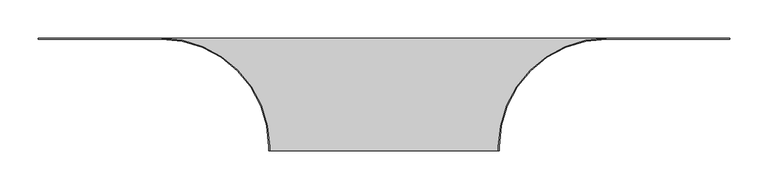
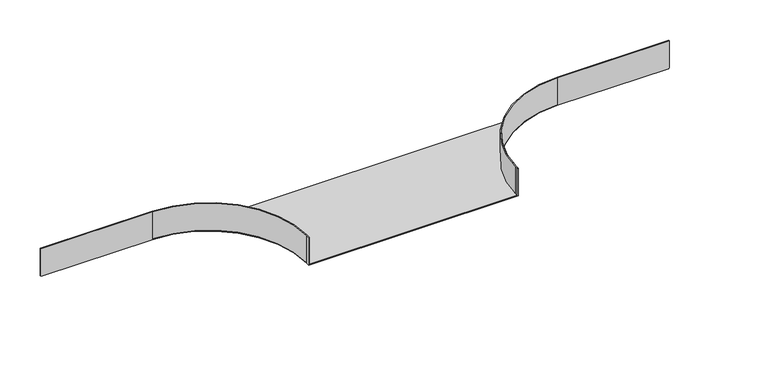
"""IFC4 building model written with IfcOpenShell, lengths in millimetres: cable carrier fitting geometry, BAKS_Horizontal addon tee : TKDJ_H42."""

import ifcopenshell
import ifcopenshell.guid

model = None  # the IFC model being written
_history = None  # IfcOwnerHistory: only IFC2X3 demands one
_inside = {}  # id of a spatial element -> (the spatial element, [elements in it])
_under = {}  # id of a project, library or spatial element -> (it, [spatial elements below it])
_declared = {}  # id of a project -> (the project, [libraries it declares])
_typed = {}  # id of a type object -> (the type object, [elements of that type])
_made_of = {}  # id of a material, layer set ... -> (it, [elements and type objects made of it])


def new_model(schema):
    """Start an empty IFC model of exactly this schema.

    Asked for "IFC4X3", IfcOpenShell would pick the latest addendum, in which some entities
    have other attributes; the version numbers below select the first issue.
    IFC2X3 requires an IfcOwnerHistory on every rooted entity: one is made here for all.
    """
    global model, _history
    if schema == "IFC4X3":
        model = ifcopenshell.file(schema_version=(4, 3, 0, 0))
    else:
        model = ifcopenshell.file(schema=schema)
    _inside.clear()
    _under.clear()
    _declared.clear()
    _typed.clear()
    _made_of.clear()
    _history = None
    if model.schema == "IFC2X3":
        org = make("IfcOrganization", Name="unknown")
        user = make(
            "IfcPersonAndOrganization",
            ThePerson=make("IfcPerson", FamilyName="unknown"),
            TheOrganization=org,
        )
        app = make(
            "IfcApplication",
            ApplicationDeveloper=org,
            Version="unknown",
            ApplicationFullName="unknown",
            ApplicationIdentifier="unknown",
        )
        _history = make(
            "IfcOwnerHistory",
            OwningUser=user,
            OwningApplication=app,
            ChangeAction="ADDED",
            CreationDate=0,
        )
    return model


def make(cls, **values):
    """One entity of the class cls with the attributes given. An attribute that is None is left unset."""
    return model.create_entity(
        cls, **{name: value for name, value in values.items() if value is not None}
    )


def rooted(cls, **values):
    """An entity with a GlobalId (a new one), such as an element, a storey or a relation."""
    return make(cls, GlobalId=ifcopenshell.guid.new(), OwnerHistory=_history, **values)


def si_unit(unit_type, name, prefix=None):
    """IfcSIUnit, for example si_unit("LENGTHUNIT", "METRE", prefix="MILLI")."""
    return make("IfcSIUnit", UnitType=unit_type, Prefix=prefix, Name=name)


def assignment(units):
    """IfcUnitAssignment: the units of a project."""
    return None if units is None else make("IfcUnitAssignment", Units=units)


def point(xyz):
    """IfcCartesianPoint."""
    return None if xyz is None else make("IfcCartesianPoint", Coordinates=xyz)


def direction(xyz):
    """IfcDirection."""
    return None if xyz is None else make("IfcDirection", DirectionRatios=xyz)


def frame(location, z_axis=None, x_axis=None):
    """IfcAxis2Placement3D, a coordinate frame: its origin and axes. An axis left out is left unset."""
    return make(
        "IfcAxis2Placement3D",
        Location=point(location),
        Axis=direction(z_axis),
        RefDirection=direction(x_axis),
    )


def origin():
    """The frame at (0, 0, 0) with its axes left unset."""
    return frame((0.0, 0.0, 0.0))


def place(relative_to, where):
    """IfcLocalPlacement: puts the frame where relative to a parent placement (None: the world)."""
    return make(
        "IfcLocalPlacement", PlacementRelTo=relative_to, RelativePlacement=where
    )


def context(
    kind, dimensions, precision=None, world=None, true_north=None, identifier=None
):
    """IfcGeometricRepresentationContext, for example the 3D "Model" context."""
    return make(
        "IfcGeometricRepresentationContext",
        ContextIdentifier=identifier,
        ContextType=kind,
        CoordinateSpaceDimension=dimensions,
        Precision=precision,
        WorldCoordinateSystem=world,
        TrueNorth=true_north,
    )


def project(units=None, contexts=None):
    """IfcProject with its units and contexts."""
    return rooted(
        "IfcProject",
        Name="project",
        RepresentationContexts=contexts,
        UnitsInContext=assignment(units),
    )


def spatial(cls, under=None, at=None, **own):
    """A site, building, storey or space (cls), placed at a placement, below another one or the project."""
    s = rooted(cls, ObjectPlacement=at, **own)
    if under is not None:
        _under.setdefault(under.id(), (under, []))[1].append(s)
    return s


def polyline(points):
    """IfcPolyline through the points."""
    return make("IfcPolyline", Points=[point(p) for p in points])


def circle_curve(where, radius):
    """IfcCircle in the frame where."""
    return make("IfcCircle", Position=where, Radius=radius)


def shape(context_of_items, identifier, shape_type, items):
    """IfcShapeRepresentation: the items that make up one representation, for example the "Body"."""
    return make(
        "IfcShapeRepresentation",
        ContextOfItems=context_of_items,
        RepresentationIdentifier=identifier,
        RepresentationType=shape_type,
        Items=items,
    )


def source(mapping_origin, context_of_items, identifier, shape_type, items):
    """IfcRepresentationMap: a shape defined once, which mapped items show again and again."""
    return make(
        "IfcRepresentationMap",
        MappingOrigin=mapping_origin,
        MappedRepresentation=shape(context_of_items, identifier, shape_type, items),
    )


def transform(
    local_origin,
    x_axis=None,
    y_axis=None,
    z_axis=None,
    scale=None,
    scale2=None,
    scale3=None,
    uniform=True,
):
    """IfcCartesianTransformationOperator3D, or its non-uniform kind. x_axis, y_axis, z_axis: its Axis1, 2, 3."""
    if uniform:
        return make(
            "IfcCartesianTransformationOperator3D",
            Axis1=direction(x_axis),
            Axis2=direction(y_axis),
            LocalOrigin=point(local_origin),
            Scale=scale,
            Axis3=direction(z_axis),
        )
    return make(
        "IfcCartesianTransformationOperator3DnonUniform",
        Axis1=direction(x_axis),
        Axis2=direction(y_axis),
        LocalOrigin=point(local_origin),
        Scale=scale,
        Axis3=direction(z_axis),
        Scale2=scale2,
        Scale3=scale3,
    )


def mapped(mapping_source, mapping_target):
    """IfcMappedItem: shows the shape of a source again, moved by a transform."""
    return make(
        "IfcMappedItem", MappingSource=mapping_source, MappingTarget=mapping_target
    )


def made_of(thing, what):
    """Note that an element or type object is made of a material, layer set ...; save() writes the relation."""
    if what is not None:
        _made_of.setdefault(what.id(), (what, []))[1].append(thing)
    return thing


def element(
    cls,
    number,
    at=None,
    inside=None,
    cuts=None,
    type_object=None,
    material=None,
    context=None,
    identifier="Body",
    shape_type=None,
    held_by="IfcProductDefinitionShape",
    body=None,
    shapes=None,
    **own,
):
    """One element of the class cls, such as IfcWall. Its Tag is "e" and its number.

    at: its placement. inside: the storey or other place that contains it. cuts: it is an
    opening in that element (IfcRelVoidsElement). A single representation is given by context,
    identifier, shape_type and body (its items); several are given by shapes. held_by: the class
    of the entity that holds the representations. save() writes the other relations.
    """
    e = rooted(cls, Tag="e%d" % number, ObjectPlacement=at, **own)
    if body is not None:
        shapes = [shape(context, identifier, shape_type, body)]
    if shapes is not None:
        e.Representation = make(held_by, Representations=shapes)
    if inside is not None:
        _inside.setdefault(inside.id(), (inside, []))[1].append(e)
    if cuts is not None:
        rooted(
            "IfcRelVoidsElement", RelatingBuildingElement=cuts, RelatedOpeningElement=e
        )
    if type_object is not None:
        _typed.setdefault(type_object.id(), (type_object, []))[1].append(e)
    return made_of(e, material)


def aggregate(whole, parts):
    """IfcRelAggregates: a whole, such as a stair, and the parts it consists of."""
    return rooted("IfcRelAggregates", RelatingObject=whole, RelatedObjects=parts)


def save(model, path):
    """Write the relations noted so far, then the file.

    IfcRelAggregates (storeys below a building ...), IfcRelContainedInSpatialStructure (elements
    in a storey), IfcRelDefinesByType, IfcRelAssociatesMaterial and IfcRelDeclares: one each for
    every whole, place, type object, material and project.
    """
    for whole, parts in _under.values():
        aggregate(whole, parts)
    for where, things in _inside.values():
        rooted(
            "IfcRelContainedInSpatialStructure",
            RelatedElements=things,
            RelatingStructure=where,
        )
    for kind, things in _typed.values():
        rooted("IfcRelDefinesByType", RelatedObjects=things, RelatingType=kind)
    for what, things in _made_of.values():
        rooted("IfcRelAssociatesMaterial", RelatedObjects=things, RelatingMaterial=what)
    for by, libraries in _declared.values():
        rooted("IfcRelDeclares", RelatingContext=by, RelatedDefinitions=libraries)
    model.write(path)


def plane_surface(at):
    """IfcPlane: the flat surface through the origin of the frame at, square to its z axis."""
    return make("IfcPlane", Position=at)


def cylinder_surface(at, radius):
    """IfcCylindricalSurface: all points at the distance radius from the z axis of the frame at."""
    return make("IfcCylindricalSurface", Position=at, Radius=radius)


def revolved_surface(curve, axis_point, axis_direction):
    """IfcSurfaceOfRevolution: the curve turned about the line through axis_point along axis_direction."""
    return make(
        "IfcSurfaceOfRevolution",
        SweptCurve=make("IfcArbitraryOpenProfileDef", ProfileType="CURVE", Curve=curve),
        AxisPosition=make("IfcAxis1Placement", Location=point(axis_point), Axis=direction(axis_direction)),
    )


def advanced_brep(points, edges, surfaces, faces):
    """IfcAdvancedBrep: a solid bounded by faces that lie on surfaces and meet in shared edges.

    An edge is (start, end): straight between two places in points (the first is 0);
    or (start, end, curve); or (start, end, curve, False) where it runs against its curve.
    A face is (place in surfaces, loops), or (place, loops, False) where it looks against
    its surface's normal. A loop lists edges by number (the first is 1), with a minus sign
    where the edge is run from its end to its start. The first loop is the outer one.
    """
    corners = [point(p) for p in points]
    vertices = [make("IfcVertexPoint", VertexGeometry=c) for c in corners]
    made = []
    for start, end, *more in edges:
        made.append(
            make(
                "IfcEdgeCurve",
                EdgeStart=vertices[start],
                EdgeEnd=vertices[end],
                EdgeGeometry=more[0] if more else make("IfcPolyline", Points=[corners[start], corners[end]]),
                SameSense=more[1] if len(more) > 1 else True,
            )
        )
    hull = []
    for where, loops, *sense in faces:
        bounds = []
        for j, loop in enumerate(loops):
            ring = [make("IfcOrientedEdge", EdgeElement=made[abs(k) - 1], Orientation=k > 0) for k in loop]
            bounds.append(
                make(
                    "IfcFaceOuterBound" if j == 0 else "IfcFaceBound",
                    Bound=make("IfcEdgeLoop", EdgeList=ring),
                    Orientation=True,
                )
            )
        hull.append(make("IfcAdvancedFace", Bounds=bounds, FaceSurface=surfaces[where], SameSense=sense[0] if sense else True))
    return make("IfcAdvancedBrep", Outer=make("IfcClosedShell", CfsFaces=hull))


def cable_carrier_fitting_b296faec(model_context):
    return source(origin(), model_context, "Body", "AdvancedBrep", [
        advanced_brep(
        [(-150.0, -291.0, 21.0), (-150.0, -296.0, 21.0), (-149.0, -296.0, 21.0), (-149.0, -291.0, 21.0), (-290.0, -150.0, 21.0), (-450.0, -150.0, 21.0), (-450.0, -151.0, 21.0), (-290.0, -151.0, 21.0), (150.0, -291.0, 21.0), (290.0, -151.0, 21.0), (450.0, -151.0, 21.0), (450.0, -150.0, 21.0), (290.0, -150.0, 21.0), (149.0, -291.0, 21.0), (149.0, -296.0, 21.0), (150.0, -296.0, 21.0), (-450.0, -151.0, -20.0), (-450.0, -150.0, -20.0), (-449.0, -150.0, -20.0), (-449.0, -151.0, -20.0), (450.0, -150.0, -20.0), (450.0, -151.0, -20.0), (449.0, -151.0, -20.0), (449.0, -150.0, -20.0), (-150.0, -291.0, -20.0), (-150.0, -291.0, -21.0), (-150.0, -296.0, -21.0), (150.0, -296.0, -21.0), (149.0, -296.0, -20.0), (-149.0, -296.0, -20.0), (-149.0, -291.0, -20.0), (-290.0, -150.0, -20.0), (290.0, -150.0, -20.0), (449.0, -150.0, -21.0), (-449.0, -150.0, -21.0), (-449.0, -151.0, -21.0), (-290.0, -151.0, -21.0), (-290.0, -151.0, -20.0), (150.0, -291.0, -20.0), (290.0, -151.0, -20.0), (290.0, -151.0, -21.0), (449.0, -151.0, -21.0), (149.0, -291.0, -20.0), (150.0, -291.0, -21.0)],
        [
            (0, 1),
            (1, 2),
            (2, 3),
            (3, 4, circle_curve(frame((-290.0, -291.0, 21.0), z_axis=(0.0, 0.0, 1.0), x_axis=(1.0, 0.0, 0.0)), 141.0)),
            (4, 5),
            (5, 6),
            (6, 7),
            (7, 0, circle_curve(frame((-290.0, -291.0, 21.0), z_axis=(0.0, 0.0, -1.0), x_axis=(1.0, 0.0, 0.0)), 140.0)),
            (8, 9, circle_curve(frame((290.0, -291.0, 21.0), z_axis=(0.0, 0.0, -1.0), x_axis=(1.0, 0.0, 0.0)), 140.0)),
            (9, 10),
            (10, 11),
            (11, 12),
            (12, 13, circle_curve(frame((290.0, -291.0, 21.0), z_axis=(0.0, 0.0, 1.0), x_axis=(1.0, 0.0, 0.0)), 141.0)),
            (13, 14),
            (14, 15),
            (15, 8),
            (16, 17),
            (17, 18),
            (18, 19),
            (19, 16),
            (20, 21),
            (21, 22),
            (22, 23),
            (23, 20),
            (0, 24),
            (24, 25),
            (25, 26),
            (26, 1),
            (26, 27),
            (27, 15),
            (14, 28),
            (28, 29),
            (29, 2),
            (29, 30),
            (30, 3),
            (30, 31, circle_curve(frame((-290.0, -291.0, -20.0), z_axis=(0.0, 0.0, 1.0), x_axis=(1.0, 0.0, 0.0)), 141.0)),
            (31, 4),
            (31, 32),
            (32, 12),
            (11, 20),
            (23, 33),
            (33, 34),
            (34, 18),
            (17, 5),
            (6, 16),
            (19, 35),
            (35, 36),
            (36, 37),
            (37, 7),
            (37, 24, circle_curve(frame((-290.0, -291.0, -20.0), z_axis=(0.0, 0.0, -1.0), x_axis=(1.0, 0.0, 0.0)), 140.0)),
            (8, 38),
            (38, 39, circle_curve(frame((290.0, -291.0, -20.0), z_axis=(0.0, 0.0, -1.0), x_axis=(1.0, 0.0, 0.0)), 140.0)),
            (39, 9),
            (39, 40),
            (40, 41),
            (41, 22),
            (21, 10),
            (32, 42, circle_curve(frame((290.0, -291.0, -20.0), z_axis=(0.0, 0.0, 1.0), x_axis=(1.0, 0.0, 0.0)), 141.0)),
            (42, 13),
            (42, 28),
            (27, 43),
            (43, 38),
            (25, 36, circle_curve(frame((-290.0, -291.0, -21.0), z_axis=(0.0, 0.0, 1.0), x_axis=(1.0, 0.0, 0.0)), 140.0)),
            (35, 34),
            (33, 41),
            (40, 43, circle_curve(frame((290.0, -291.0, -21.0), z_axis=(0.0, 0.0, 1.0), x_axis=(1.0, 0.0, 0.0)), 140.0)),
        ],
        [
            plane_surface(frame((-150.0, -291.0, 21.0), z_axis=(0.0, 0.0, 1.0), x_axis=(0.0, -1.0, 0.0))),
            plane_surface(frame((-150.0, -291.0, -20.0), z_axis=(0.0, 0.0, -1.0), x_axis=(0.0, 1.0, 0.0))),
            plane_surface(frame((-150.0, -291.0, 21.0), z_axis=(-1.0, 0.0, 0.0), x_axis=(0.0, 0.0, -1.0))),
            plane_surface(frame((-150.0, -296.0, 21.0), z_axis=(0.0, -1.0, 0.0), x_axis=(0.0, 0.0, -1.0))),
            plane_surface(frame((-149.0, -296.0, 21.0), z_axis=(1.0, 0.0, 0.0), x_axis=(0.0, 0.0, -1.0))),
            cylinder_surface(frame((-290.0, -291.0, -20.0), z_axis=(0.0, 0.0, 1.0), x_axis=(1.0, 0.0, 0.0)), 141.0),
            plane_surface(frame((-290.0, -150.0, 21.0), z_axis=(0.0, 1.0, 0.0), x_axis=(0.0, 0.0, -1.0))),
            plane_surface(frame((-450.0, -151.0, 21.0), z_axis=(0.0, -1.0, 0.0), x_axis=(0.0, 0.0, -1.0))),
            revolved_surface(polyline([(-150.0, -291.0, -20.0), (-150.0, -291.0, 21.0)]), (-290.0, -291.0, -20.0), (0.0, 0.0, -1.0)),
            revolved_surface(polyline([(430.0, -291.0, -20.0), (430.0, -291.0, 21.0)]), (290.0, -291.0, 0.0), (0.0, 0.0, -1.0)),
            plane_surface(frame((290.0, -151.0, 21.0), z_axis=(0.0, -1.0, 0.0), x_axis=(0.0, 0.0, -1.0))),
            cylinder_surface(frame((290.0, -291.0, 0.0), z_axis=(0.0, 0.0, 1.0), x_axis=(1.0, 0.0, 0.0)), 141.0),
            plane_surface(frame((149.0, -291.0, 21.0), z_axis=(-1.0, 0.0, 0.0), x_axis=(0.0, 0.0, -1.0))),
            plane_surface(frame((150.0, -296.0, 21.0), z_axis=(1.0, 0.0, 0.0), x_axis=(0.0, 0.0, -1.0))),
            plane_surface(frame((-150.0, -291.0, -20.0), z_axis=(0.0, 0.0, 1.0), x_axis=(0.0, -1.0, 0.0))),
            plane_surface(frame((-150.0, -291.0, -21.0), z_axis=(0.0, 0.0, -1.0), x_axis=(0.0, 1.0, 0.0))),
            revolved_surface(polyline([(430.0, -291.0, -21.0), (430.0, -291.0, -20.0)]), (290.0, -291.0, -21.0), (0.0, 0.0, -1.0)),
            plane_surface(frame((449.0, -151.0, -20.0), z_axis=(1.0, 0.0, 0.0), x_axis=(0.0, 0.0, -1.0))),
            plane_surface(frame((-449.0, -150.0, -20.0), z_axis=(-1.0, 0.0, 0.0), x_axis=(0.0, 0.0, -1.0))),
            revolved_surface(polyline([(-150.0, -291.0, -21.0), (-150.0, -291.0, -20.0)]), (-290.0, -291.0, -21.0), (0.0, 0.0, -1.0)),
            plane_surface(frame((-450.0, -150.0, 21.0), z_axis=(-1.0, 0.0, 0.0), x_axis=(0.0, 0.0, -1.0))),
            plane_surface(frame((450.0, -151.0, 21.0), z_axis=(1.0, 0.0, 0.0), x_axis=(0.0, 0.0, -1.0))),
        ],
        [
            (0, [[1, 2, 3, 4, 5, 6, 7, 8]]),
            (0, [[9, 10, 11, 12, 13, 14, 15, 16]]),
            (1, [[17, 18, 19, 20]]),
            (1, [[21, 22, 23, 24]]),
            (2, [[-1, 25, 26, 27, 28]]),
            (3, [[-2, -28, 29, 30, -15, 31, 32, 33]]),
            (4, [[-3, -33, 34, 35]]),
            (5, [[-4, -35, 36, 37]]),
            (6, [[-5, -37, 38, 39, -12, 40, -24, 41, 42, 43, -18, 44]]),
            (7, [[-7, 45, -20, 46, 47, 48, 49]]),
            (8, [[-8, -49, 50, -25]]),
            (9, [[-9, 51, 52, 53]]),
            (10, [[-10, -53, 54, 55, 56, -22, 57]]),
            (11, [[-13, -39, 58, 59]]),
            (12, [[-14, -59, 60, -31]]),
            (13, [[-16, -30, 61, 62, -51]]),
            (14, [[-32, -60, -58, -38, -36, -34]]),
            (15, [[63, -47, 64, -42, 65, -55, 66, -61, -29, -27]]),
            (16, [[-66, -54, -52, -62]]),
            (17, [[-65, -41, -23, -56]]),
            (18, [[-64, -46, -19, -43]]),
            (19, [[-63, -26, -50, -48]]),
            (20, [[-6, -44, -17, -45]]),
            (21, [[-11, -57, -21, -40]]),
        ],
    ),
    ])


if __name__ == "__main__":
    model = new_model("IFC4")
    model_context = context("Model", 3, world=origin())
    ifc_project = project(units=[si_unit("LENGTHUNIT", "METRE", prefix="MILLI")], contexts=[model_context])
    site = spatial("IfcSite", under=ifc_project)
    building = spatial("IfcBuilding", under=site)
    placement = place(None, origin())
    cable_carrier_fitting_shape = cable_carrier_fitting_b296faec(model_context)
    element("IfcCableCarrierFitting", 1, ObjectType="BAKS_Horizontal addon tee : TKDJ_H42", at=placement, inside=building, context=model_context, shape_type="MappedRepresentation", body=[
        mapped(cable_carrier_fitting_shape, transform((0.0, 0.0, 0.0), x_axis=(1.0, 0.0, 0.0), y_axis=(0.0, 1.0, 0.0), z_axis=(0.0, 0.0, 1.0))),
    ])
    save(model, "model.ifc")
